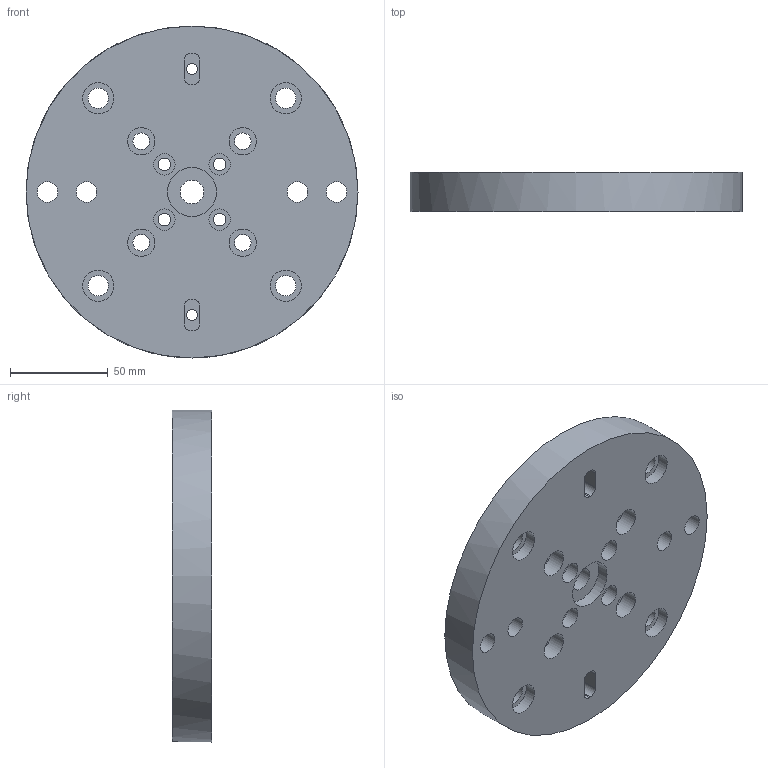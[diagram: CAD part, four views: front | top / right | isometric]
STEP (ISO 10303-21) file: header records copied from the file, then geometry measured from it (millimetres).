
FILE_DESCRIPTION(/* description */ (''),/* implementation_level */ '2;1');
FILE_NAME(/* name */ '',/* time_stamp */ '2023-09-05T10:28:56+08:00',/* author */ (''),/* organization */ (''),/* preprocessor_version */ 'ST-DEVELOPER v11',/* originating_system */ 'SIEMENS PLM Software NX 7.0',/* authorisation */ '');
FILE_SCHEMA (('CONFIG_CONTROL_DESIGN'));
Length unit declared in the file: millimetre
Products named in the file (1): AdmiF4C8gqft
Bounding box: 170 x 20 x 170 mm (x, y, z)
Volume: 400842.2 mm3; surface area: 69198.6 mm2
Topology: 1 solids, 1 shells, 102 faces, 222 edges, 155 vertices
Faces by surface type: cylinder 59, plane 43
Full cylindrical faces by diameter (mm): 5.5 x2, 6.5 x4, 8.5 x4, 9 x4, 10.5 x8, 11 x6, 12 x5, 14 x4, 16 x4, 18 x8, 25 x1, 170 x1
Entity records: 2660 total; most frequent: DIRECTION 486, CARTESIAN_POINT 402, ORIENTED_EDGE 314, AXIS2_PLACEMENT_3D 225, EDGE_LOOP 224, FACE_BOUND 204, EDGE_CURVE 157, VERTEX_POINT 141
